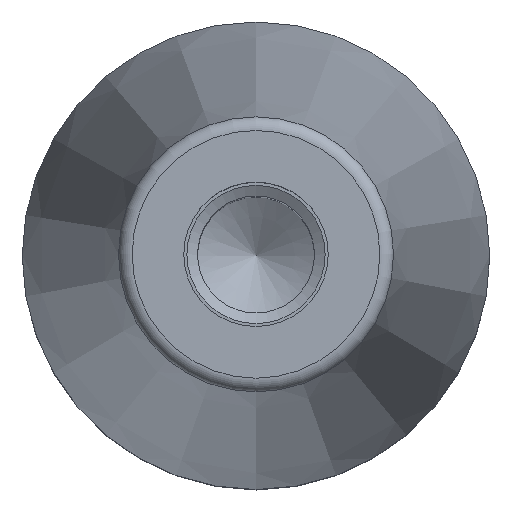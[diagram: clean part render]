
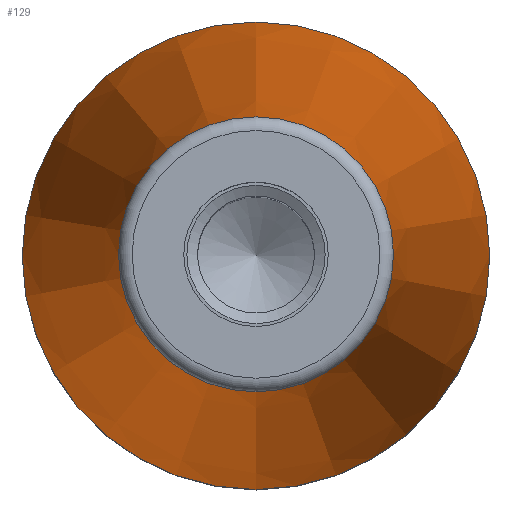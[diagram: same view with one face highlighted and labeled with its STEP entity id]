
A CAD part, top view. The second image highlights one B-rep face of the part: STEP entity #129.
In plain terms, the highlighted conical face has half-angle 6.642 degrees and reference radius 17 mm.
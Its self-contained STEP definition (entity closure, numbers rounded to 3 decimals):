
#24 = CARTESIAN_POINT ( 'NONE',  ( 0., 0., -61. ) ) ;
#41 = CARTESIAN_POINT ( 'NONE',  ( 0., 0., -61. ) ) ;
#55 = CIRCLE ( 'NONE', #169, 10. ) ;
#58 = CARTESIAN_POINT ( 'NONE',  ( 0., -17., -61. ) ) ;
#60 = EDGE_CURVE ( 'NONE', #63, #63, #55, .T. ) ;
#61 = VERTEX_POINT ( 'NONE', #58 ) ;
#63 = VERTEX_POINT ( 'NONE', #269 ) ;
#72 = AXIS2_PLACEMENT_3D ( 'NONE', #41, #243, #130 ) ;
#77 = DIRECTION ( 'NONE',  ( 0., -1., 0. ) ) ;
#87 = EDGE_CURVE ( 'NONE', #61, #61, #154, .T. ) ;
#105 = CONICAL_SURFACE ( 'NONE', #72, 17., 0.116 ) ;
#109 = DIRECTION ( 'NONE',  ( 0., 0., 1. ) ) ;
#129 = ADVANCED_FACE ( 'NONE', ( #133, #132 ), #105, .T. ) ;
#130 = DIRECTION ( 'NONE',  ( 0., 1., 0. ) ) ;
#132 = FACE_OUTER_BOUND ( 'NONE', #236, .T. ) ;
#133 = FACE_BOUND ( 'NONE', #271, .T. ) ;
#153 = AXIS2_PLACEMENT_3D ( 'NONE', #24, #109, #162 ) ;
#154 = CIRCLE ( 'NONE', #153, 17. ) ;
#162 = DIRECTION ( 'NONE',  ( 0., -1., 0. ) ) ;
#169 = AXIS2_PLACEMENT_3D ( 'NONE', #176, #173, #77 ) ;
#173 = DIRECTION ( 'NONE',  ( 0., 0., 1. ) ) ;
#176 = CARTESIAN_POINT ( 'NONE',  ( 0., 0., -0.884 ) ) ;
#236 = EDGE_LOOP ( 'NONE', ( #261 ) ) ;
#243 = DIRECTION ( 'NONE',  ( 0., 0., -1. ) ) ;
#260 = ORIENTED_EDGE ( 'NONE', *, *, #60, .F. ) ;
#261 = ORIENTED_EDGE ( 'NONE', *, *, #87, .T. ) ;
#269 = CARTESIAN_POINT ( 'NONE',  ( 0., -10., -0.884 ) ) ;
#271 = EDGE_LOOP ( 'NONE', ( #260 ) ) ;
